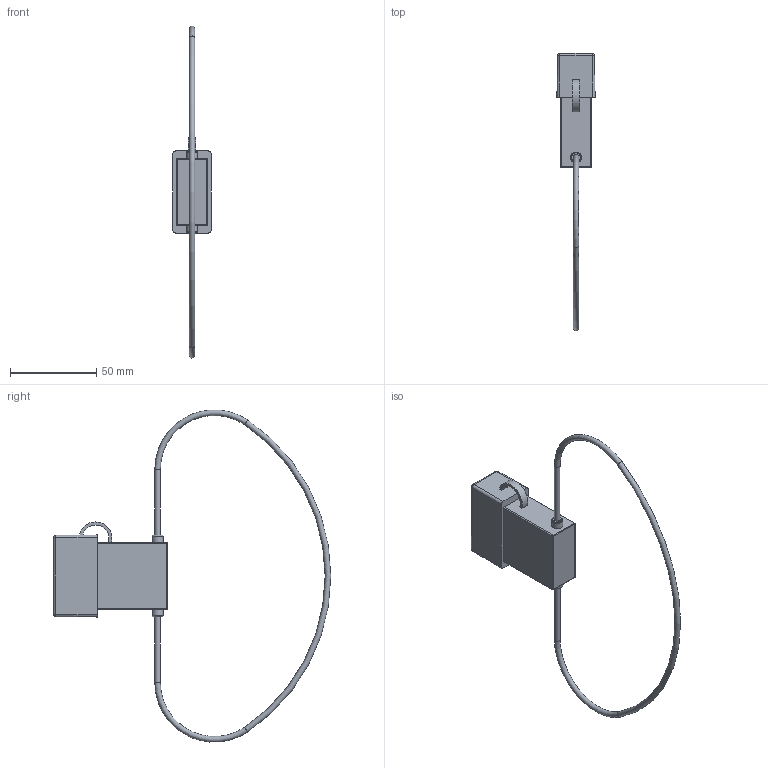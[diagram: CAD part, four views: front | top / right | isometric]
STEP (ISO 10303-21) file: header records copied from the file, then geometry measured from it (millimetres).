
FILE_DESCRIPTION(/* description */ (''),/* implementation_level */ '2;1');
FILE_NAME(/* name */ 'C:\Users\Hani\Desktop\work\LPX-23B-8R-Loop\LPX-23.stp',/* time_stamp */ '2020-10-28T19:30:46-07:00',/* author */ ('Hani'),/* organization */ (''),/* preprocessor_version */ 'ST-DEVELOPER v17',/* originating_system */ 'Autodesk Inventor 2019',/* authorisation */ '');
FILE_SCHEMA (('AUTOMOTIVE_DESIGN { 1 0 10303 214 3 1 1 }'));
Length unit declared in the file: inch
Products named in the file (1): LPX-23
Bounding box: 22.03 x 160.49 x 191.97 mm (x, y, z)
Volume: 43184.4 mm3; surface area: 18783.8 mm2
Topology: 1 solids, 1 shells, 66 faces, 152 edges, 86 vertices
Faces by surface type: cylinder 27, plane 26, sphere 8, torus 5
Full cylindrical faces by diameter (mm): 3.264 x2, 6.35 x2
Entity records: 1980 total; most frequent: DIRECTION 357, CARTESIAN_POINT 305, ORIENTED_EDGE 304, EDGE_CURVE 152, AXIS2_PLACEMENT_3D 138, VERTEX_POINT 86, LINE 81, VECTOR 81
